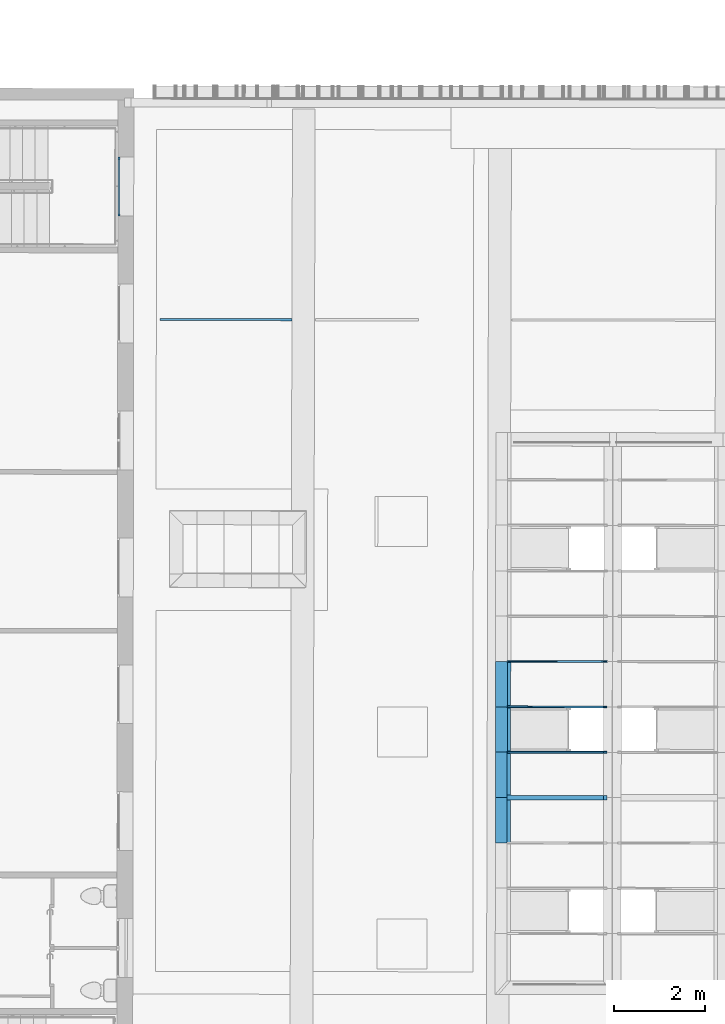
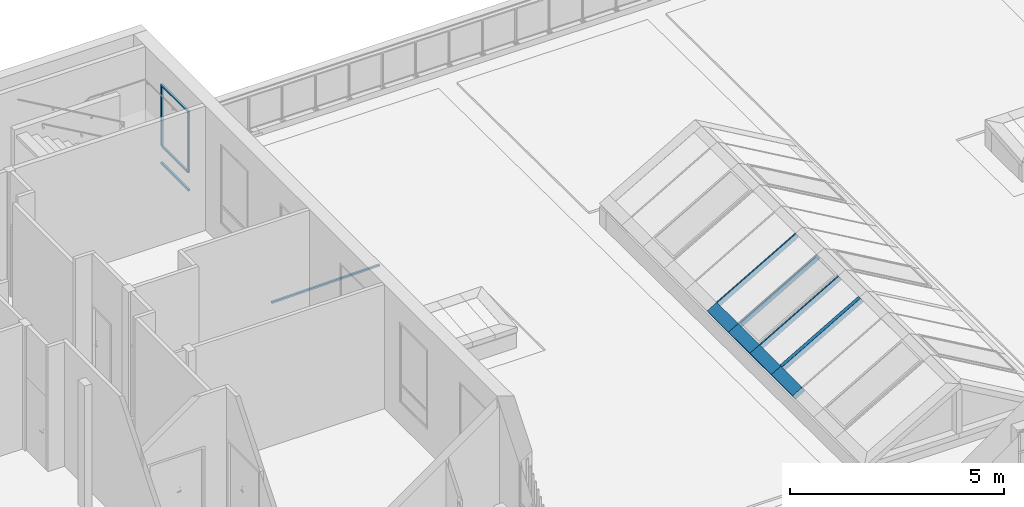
# One storey, part 10 of 101: 13 members, 1 beam, 2 elements without a shape of their own.
"""IFC2X3 building model written with IfcOpenShell, lengths in metres."""

from ifc_helpers import new_model, entity, si_unit, converted_unit, derived_unit, direction, frame, frame_2d, origin, origin_2d_with_axis, place, context, subcontext, project, spatial, rectangle, extrude, clip, halfspace, source, transform, mapped, material, type_object, type_shapes, element, aggregate, save


model = new_model("IFC2X3")

# Units and contexts
model_context = context("Model", 3, precision=1e-05, world=origin(), true_north=direction((6.123233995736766e-17, 1.0)))
body_context = subcontext(model_context, "Body", "Model", "MODEL_VIEW")
ifc_project = project(units=[si_unit("LENGTHUNIT", "METRE"), si_unit("AREAUNIT", "SQUARE_METRE"), converted_unit("PLANEANGLEUNIT", "DEGREE", entity("IfcPlaneAngleMeasure", 0.017453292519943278), si_unit("PLANEANGLEUNIT", "RADIAN"), dimensions=[0, 0, 0, 0, 0, 0, 0]), derived_unit("THERMALTRANSMITTANCEUNIT", [(si_unit("MASSUNIT", "GRAM", prefix="KILO"), 1), (si_unit("THERMODYNAMICTEMPERATUREUNIT", "KELVIN"), -1), (si_unit("TIMEUNIT", "SECOND"), -3)])], contexts=[model_context])

# Site, building, storey
site_placement = place(None, frame((1253.6752467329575, 2072.143113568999, 91.49999999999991), z_axis=(0.0, 0.0, 1.0), x_axis=(0.7237211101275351, 0.6900925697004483, 0.0)))
site = spatial("IfcSite", under=ifc_project, at=site_placement, Name="Surface", CompositionType="ELEMENT")
building_placement = place(site_placement, origin())
building = spatial("IfcBuilding", under=site, at=building_placement, CompositionType="ELEMENT")
storey_placement = place(building_placement, origin())
storey = spatial("IfcBuildingStorey", under=building, at=storey_placement, Name="0- Rdc", CompositionType="ELEMENT", Elevation=-5.764692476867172e-13)

# Curtain wall, members
curtain_wall_type_1 = type_object("IfcCurtainWallType", Name="Mur-rideau:Menuiserie Ext 1F+1OB VERTIC", PredefinedType="NOTDEFINED")
curtain_wall_placement = place(storey_placement, origin())
curtain_wall = element("IfcCurtainWall", 1, at=curtain_wall_placement, inside=storey, type_object=curtain_wall_type_1, Name="Mur-rideau:Menuiserie Ext 1F+1OB VERTIC", ObjectType="Mur-rideau:Menuiserie Ext 1F+1OB VERTIC")
ifc_material_1 = material(Name="OMD_Aluminium Men Ext")
member_type_1 = type_object("IfcMemberType", Name="Meneau rectangulaire:50x50", PredefinedType="MULLION", material=ifc_material_1)
shared_shape_1 = source(origin(), body_context, "Body", "SweptSolid", [
    extrude(rectangle(XDim=0.05, YDim=0.05, at=origin_2d_with_axis()), frame((-0.025, 0.0, -1.2996959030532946), z_axis=(0.0, 0.0, 1.0), x_axis=(-1.0, 0.0, 0.0)), (0.0, 0.0, 1.0), 1.299695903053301),
])
type_shapes(member_type_1, [shared_shape_1])
member_1_placement = place(curtain_wall_placement, frame((175.00590862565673, 17.187244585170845, 2.8999999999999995), z_axis=(0.6909838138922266, 0.7228702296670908, 0.0), x_axis=(0.0, 0.0, 1.0)))
member_1 = element("IfcMember", 2, at=member_1_placement, type_object=member_type_1, material=ifc_material_1, Name="Meneau rectangulaire:50x50", ObjectType="Meneau rectangulaire:50x50", context=body_context, shape_type="MappedRepresentation", body=[
    mapped(shared_shape_1, transform((0.0, 0.0, 0.0), scale=1.0)),
])
member_type_2 = type_object("IfcMemberType", Name="Meneau rectangulaire:50x50", PredefinedType="MULLION", material=ifc_material_1)
shared_shape_2 = source(origin(), body_context, "Body", "SweptSolid", [
    extrude(rectangle(XDim=0.05, YDim=0.05, at=origin_2d_with_axis()), frame((-0.025, 0.0, -1.299695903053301), z_axis=(0.0, 0.0, 1.0), x_axis=(-1.0, 0.0, 0.0)), (0.0, 0.0, 1.0), 1.299695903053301),
])
type_shapes(member_type_2, [shared_shape_2])
member_2_placement = place(curtain_wall_placement, frame((174.10783979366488, 16.24773310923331, 0.62), z_axis=(-0.6909838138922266, -0.7228702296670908, 0.0), x_axis=(0.0, 0.0, -1.0)))
member_2 = element("IfcMember", 3, at=member_2_placement, type_object=member_type_2, material=ifc_material_1, Name="Meneau rectangulaire:50x50", ObjectType="Meneau rectangulaire:50x50", context=body_context, shape_type="MappedRepresentation", body=[
    mapped(shared_shape_2, transform((0.0, 0.0, 0.0), scale=1.0)),
])
member_type_3 = type_object("IfcMemberType", Name="Meneau rectangulaire:50x50", PredefinedType="MULLION", material=ifc_material_1)
shared_shape_3 = source(origin(), body_context, "Body", "SweptSolid", [
    extrude(rectangle(XDim=0.05, YDim=0.05000000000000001, at=origin_2d_with_axis()), frame((-0.025, 0.0, -1.7099999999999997), z_axis=(0.0, 0.0, 1.0), x_axis=(-1.0, 0.0, 0.0)), (0.0, 0.0, 1.0), 1.7099999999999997),
])
type_shapes(member_type_3, [shared_shape_3])
member_3_placement = place(curtain_wall_placement, frame((174.1078397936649, 16.247733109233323, 2.8499999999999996), z_axis=(0.0, 0.0, 1.0), x_axis=(-0.6909838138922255, -0.722870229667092, 0.0)))
member_3 = element("IfcMember", 4, at=member_3_placement, type_object=member_type_3, material=ifc_material_1, Name="Meneau rectangulaire:50x50", ObjectType="Meneau rectangulaire:50x50", context=body_context, shape_type="MappedRepresentation", body=[
    mapped(shared_shape_3, transform((0.0, 0.0, 0.0), scale=1.0)),
])
member_type_4 = type_object("IfcMemberType", Name="Meneau rectangulaire:50x50", PredefinedType="MULLION", material=ifc_material_1)
shared_shape_4 = source(origin(), body_context, "Body", "SweptSolid", [
    extrude(rectangle(XDim=0.05, YDim=0.049999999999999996, at=origin_2d_with_axis()), frame((-0.025, 0.0, -1.7099999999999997), z_axis=(0.0, 0.0, 1.0), x_axis=(-1.0, 0.0, 0.0)), (0.0, 0.0, 1.0), 1.7099999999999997),
])
type_shapes(member_type_4, [shared_shape_4])
member_4_placement = place(curtain_wall_placement, frame((175.0059086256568, 17.187244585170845, 1.14), z_axis=(0.0, 0.0, -1.0), x_axis=(0.6909838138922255, 0.722870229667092, 0.0)))
member_4 = element("IfcMember", 5, at=member_4_placement, type_object=member_type_4, material=ifc_material_1, Name="Meneau rectangulaire:50x50", ObjectType="Meneau rectangulaire:50x50", context=body_context, shape_type="MappedRepresentation", body=[
    mapped(shared_shape_4, transform((0.0, 0.0, 0.0), scale=1.0)),
])
member_type_5 = type_object("IfcMemberType", Name="Meneau rectangulaire:50x50", PredefinedType="MULLION", material=ifc_material_1)
shared_shape_5 = source(origin(), body_context, "Body", "SweptSolid", [
    extrude(rectangle(XDim=0.05, YDim=0.05, at=origin_2d_with_axis()), frame((0.0, 0.0, -1.1996959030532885), z_axis=(0.0, 0.0, 1.0), x_axis=(-1.0, 0.0, 0.0)), (0.0, 0.0, 1.0), 1.199695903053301),
])
type_shapes(member_type_5, [shared_shape_5])
member_5_placement = place(curtain_wall_placement, frame((174.97135943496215, 17.1511010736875, 1.14), z_axis=(0.6909838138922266, 0.7228702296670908, 0.0), x_axis=(0.0, 0.0, 1.0)))
member_5 = element("IfcMember", 6, at=member_5_placement, type_object=member_type_5, material=ifc_material_1, Name="Meneau rectangulaire:50x50", ObjectType="Meneau rectangulaire:50x50", context=body_context, shape_type="MappedRepresentation", body=[
    mapped(shared_shape_5, transform((0.0, 0.0, 0.0), scale=1.0)),
])
aggregate(curtain_wall, [member_1, member_2, member_3, member_4, member_5])

# Beam
ifc_material_2 = material(Name="RAL 7016 - Anthracite Grey")
beam_type = type_object("IfcBeamType", Name="ART-Béton - Poutre rectangulaire:Po 5x5 ht acier", PredefinedType="BEAM")
beam_placement = place(storey_placement, frame((173.18864826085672, 13.973491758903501, -1.4644265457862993), z_axis=(-0.013471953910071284, 0.012878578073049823, 0.9998263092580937), x_axis=(0.722721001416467, -0.690888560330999, 0.018637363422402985)))
element("IfcBeam", 7, at=beam_placement, inside=storey, type_object=beam_type, material=ifc_material_2, Name="ART-Béton - Poutre rectangulaire:Po 5x5 ht acier", ObjectType="ART-Béton - Poutre rectangulaire:Po 5x5 ht acier", context=body_context, shape_type="SweptSolid", body=[
    clip(extrude(rectangle(XDim=0.04999999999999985, YDim=0.05000000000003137, at=frame_2d((1.196959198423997e-16, 7.858297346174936e-16), x_axis=(1.0, 0.0))), frame((0.0, 0.0, -0.025000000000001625), z_axis=(1.0, 0.0, 0.0), x_axis=(0.0, 0.0, -1.0)), (0.0, 0.0, 1.0), 2.91088103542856), halfspace(frame((2.9059052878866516, 4.632656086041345, -0.5977940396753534), z_axis=(0.9998254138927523, -0.0013382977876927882, -0.01863734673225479), x_axis=(-0.001171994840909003, -0.9999594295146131, 0.008931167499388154)), False)),
])

# Roof, members
curtain_wall_type_2 = type_object("IfcCurtainWallType", Name="Vitres inclinées:Toit en verre 1 m x 2 m", PredefinedType="NOTDEFINED")
roof_placement = place(storey_placement, origin())
roof = element("IfcRoof", 8, at=roof_placement, inside=storey, type_object=curtain_wall_type_2, Name="Vitres inclinées:Toit en verre 1 m x 2 m", ObjectType="Vitres inclinées:Toit en verre 1 m x 2 m", ShapeType="NOTDEFINED")
ifc_material_3 = material(Name="OMD_Aluminium blanc")
member_type_6 = type_object("IfcMemberType", Name="Meneau rectangulaire:37.5x150", PredefinedType="MULLION", material=ifc_material_3)
shared_shape_6 = source(origin(), body_context, "Body", "SweptSolid", [
    extrude(rectangle(XDim=0.0376, YDim=0.14999999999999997, at=origin_2d_with_axis()), frame((0.0, 0.06499999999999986, -2.452048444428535), z_axis=(0.0, 0.0, 1.0), x_axis=(-1.0, 0.0, 0.0)), (0.0, 0.0, 1.0), 2.452048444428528),
])
type_shapes(member_type_6, [shared_shape_6])
member_6_placement = place(roof_placement, frame((175.06662593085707, 1.7562487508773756, 1.6219236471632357), z_axis=(0.6260239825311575, -0.5984095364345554, 0.5000000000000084), x_axis=(-0.6909838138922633, -0.7228702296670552, 0.0)))
member_6 = element("IfcMember", 9, at=member_6_placement, type_object=member_type_6, material=ifc_material_3, Name="Meneau rectangulaire:37.5x150", ObjectType="Meneau rectangulaire:37.5x150", context=body_context, shape_type="MappedRepresentation", body=[
    mapped(shared_shape_6, transform((0.0, 0.0, 0.0), scale=1.0)),
])
member_7_placement = place(roof_placement, frame((173.68467896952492, 0.3105299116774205, 1.6219236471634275), z_axis=(0.6260239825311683, -0.5984095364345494, 0.5000000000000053), x_axis=(-0.6909838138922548, -0.7228702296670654, 0.0)))
member_7 = element("IfcMember", 10, at=member_7_placement, type_object=member_type_6, material=ifc_material_3, Name="Meneau rectangulaire:37.5x150", ObjectType="Meneau rectangulaire:37.5x150", context=body_context, shape_type="MappedRepresentation", body=[
    mapped(shared_shape_6, transform((0.0, 0.0, 0.0), scale=1.0)),
])
member_8_placement = place(roof_placement, frame((174.3756627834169, 1.0334001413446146, 1.6219236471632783), z_axis=(0.6260239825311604, -0.598409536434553, 0.5000000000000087), x_axis=(-0.6909838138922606, -0.7228702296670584, 0.0)))
member_8 = element("IfcMember", 11, at=member_8_placement, type_object=member_type_6, material=ifc_material_3, Name="Meneau rectangulaire:37.5x150", ObjectType="Meneau rectangulaire:37.5x150", context=body_context, shape_type="MappedRepresentation", body=[
    mapped(shared_shape_6, transform((0.0, 0.0, 0.0), scale=1.0)),
])
member_type_7 = type_object("IfcMemberType", Name="Meneau rectangulaire:22x300", PredefinedType="MULLION", material=ifc_material_3)
shared_shape_7 = source(origin(), body_context, "Body", "SweptSolid", [
    extrude(rectangle(XDim=0.29999999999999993, YDim=0.14999999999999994, at=frame_2d((1.3877787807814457e-17, 0.0), x_axis=(1.0, 0.0))), frame((-0.14999999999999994, 0.06500000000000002, -1.0), z_axis=(0.0, 0.0, 1.0), x_axis=(-1.0, 0.0, 0.0)), (0.0, 0.0, 1.0), 1.0000000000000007),
])
type_shapes(member_type_7, [shared_shape_7])
member_9_placement = place(roof_placement, frame((171.96183064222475, 1.9573819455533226, 0.24589942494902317), z_axis=(-0.6909838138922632, -0.7228702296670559, 0.0), x_axis=(-0.6260239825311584, 0.5984095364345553, -0.5000000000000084)))
member_9 = element("IfcMember", 12, at=member_9_placement, type_object=member_type_7, material=ifc_material_3, Name="Meneau rectangulaire:22x300", ObjectType="Meneau rectangulaire:22x300", context=body_context, shape_type="MappedRepresentation", body=[
    mapped(shared_shape_7, transform((0.0, 0.0, 0.0), scale=1.0)),
])
member_10_placement = place(roof_placement, frame((171.2708261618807, 1.2344900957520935, 0.24589942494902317), z_axis=(-0.6909838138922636, -0.7228702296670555, 0.0), x_axis=(-0.6260239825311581, 0.5984095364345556, -0.5000000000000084)))
member_10 = element("IfcMember", 13, at=member_10_placement, type_object=member_type_7, material=ifc_material_3, Name="Meneau rectangulaire:22x300", ObjectType="Meneau rectangulaire:22x300", context=body_context, shape_type="MappedRepresentation", body=[
    mapped(shared_shape_7, transform((0.0, 0.0, 0.0), scale=1.0)),
])
member_11_placement = place(roof_placement, frame((172.6528144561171, 2.680252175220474, 0.24589942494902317), z_axis=(-0.6909838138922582, -0.7228702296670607, 0.0), x_axis=(-0.6260239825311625, 0.598409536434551, -0.5000000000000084)))
member_11 = element("IfcMember", 14, at=member_11_placement, type_object=member_type_7, material=ifc_material_3, Name="Meneau rectangulaire:22x300", ObjectType="Meneau rectangulaire:22x300", context=body_context, shape_type="MappedRepresentation", body=[
    mapped(shared_shape_7, transform((0.0, 0.0, 0.0), scale=1.0)),
])
member_12_placement = place(roof_placement, frame((170.57984234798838, 0.5116198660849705, 0.24589942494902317), z_axis=(-0.6909838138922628, -0.7228702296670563, 0.0), x_axis=(-0.6260239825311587, 0.5984095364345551, -0.5000000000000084)))
member_12 = element("IfcMember", 15, at=member_12_placement, type_object=member_type_7, material=ifc_material_3, Name="Meneau rectangulaire:22x300", ObjectType="Meneau rectangulaire:22x300", context=body_context, shape_type="MappedRepresentation", body=[
    mapped(shared_shape_7, transform((0.0, 0.0, 0.0), scale=1.0)),
])
member_type_8 = type_object("IfcMemberType", Name="Meneau rectangulaire:100x150", PredefinedType="MULLION", material=ifc_material_1)
shared_shape_8 = source(origin(), body_context, "Body", "SweptSolid", [
    extrude(rectangle(XDim=0.1, YDim=0.15, at=origin_2d_with_axis()), frame((0.0, 0.065, -2.45204844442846), z_axis=(0.0, 0.0, 1.0), x_axis=(-1.0, 0.0, 0.0)), (0.0, 0.0, 1.0), 2.45204844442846),
])
type_shapes(member_type_8, [shared_shape_8])
member_13_placement = place(roof_placement, frame((172.99367448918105, -0.412361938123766, 1.6219236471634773), z_axis=(0.6260239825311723, -0.5984095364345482, 0.5000000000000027), x_axis=(-0.6909838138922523, -0.7228702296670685, 0.0)))
member_13 = element("IfcMember", 16, at=member_13_placement, type_object=member_type_8, material=ifc_material_1, Name="Meneau rectangulaire:100x150", ObjectType="Meneau rectangulaire:100x150", context=body_context, shape_type="MappedRepresentation", body=[
    mapped(shared_shape_8, transform((0.0, 0.0, 0.0), scale=1.0)),
])
aggregate(roof, [member_6, member_9, member_7, member_10, member_13, member_11, member_12, member_8])

save(model, "model.ifc")
